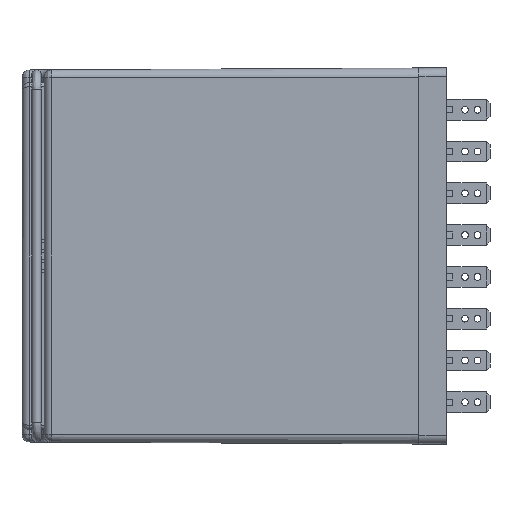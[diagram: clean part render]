
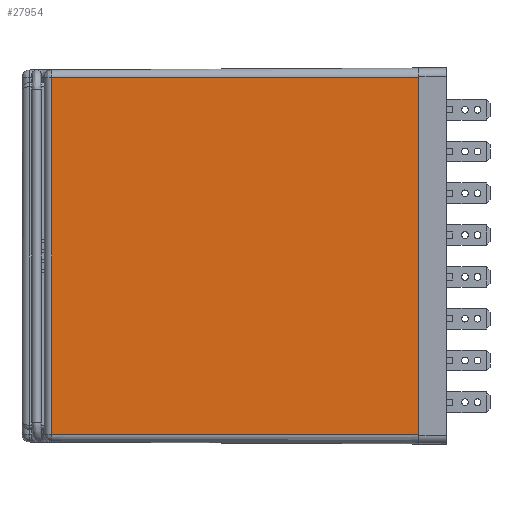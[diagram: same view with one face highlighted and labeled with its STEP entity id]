
A CAD part, front view. The second image highlights one B-rep face of the part: STEP entity #27954.
In plain terms, the highlighted planar face has unit normal (-0.005, -1, 0).
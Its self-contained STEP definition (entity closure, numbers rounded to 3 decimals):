
#1004 = DIRECTION ( 'NONE',  ( -0.005, -1., 0. ) ) ;
#2411 = VECTOR ( 'NONE', #10828, 1000. ) ;
#5689 = EDGE_CURVE ( 'NONE', #37981, #41498, #16978, .T. ) ;
#5910 = EDGE_CURVE ( 'NONE', #41498, #23125, #48045, .T. ) ;
#5987 = CARTESIAN_POINT ( 'NONE',  ( -87.909, -7.44, 42.6 ) ) ;
#6498 = VECTOR ( 'NONE', #41448, 1000. ) ;
#6945 = ORIENTED_EDGE ( 'NONE', *, *, #27018, .T. ) ;
#7037 = FACE_OUTER_BOUND ( 'NONE', #19294, .T. ) ;
#10116 = CARTESIAN_POINT ( 'NONE',  ( -87.909, -7.44, 42.6 ) ) ;
#10828 = DIRECTION ( 'NONE',  ( -1., 0.005, 0. ) ) ;
#12763 = PLANE ( 'NONE',  #15251 ) ;
#14763 = CARTESIAN_POINT ( 'NONE',  ( 0., -7.9, 42.6 ) ) ;
#15219 = VECTOR ( 'NONE', #37711, 1000. ) ;
#15251 = AXIS2_PLACEMENT_3D ( 'NONE', #44183, #1004, #28736 ) ;
#16451 = LINE ( 'NONE', #5987, #15219 ) ;
#16978 = LINE ( 'NONE', #17634, #6498 ) ;
#17634 = CARTESIAN_POINT ( 'NONE',  ( 0., -7.9, 42.6 ) ) ;
#18739 = CARTESIAN_POINT ( 'NONE',  ( 0., -7.9, 42.6 ) ) ;
#19294 = EDGE_LOOP ( 'NONE', ( #41047, #29335, #19448, #6945 ) ) ;
#19448 = ORIENTED_EDGE ( 'NONE', *, *, #31228, .T. ) ;
#23125 = VERTEX_POINT ( 'NONE', #40325 ) ;
#26923 = VECTOR ( 'NONE', #27727, 1000. ) ;
#27018 = EDGE_CURVE ( 'NONE', #42080, #23125, #16451, .T. ) ;
#27727 = DIRECTION ( 'NONE',  ( -1., 0.005, 0. ) ) ;
#27954 = ADVANCED_FACE ( 'NONE', ( #7037 ), #12763, .T. ) ;
#28736 = DIRECTION ( 'NONE',  ( 1., -0.005, 0. ) ) ;
#29335 = ORIENTED_EDGE ( 'NONE', *, *, #5689, .F. ) ;
#31228 = EDGE_CURVE ( 'NONE', #37981, #42080, #31548, .T. ) ;
#31548 = LINE ( 'NONE', #18739, #2411 ) ;
#31696 = CARTESIAN_POINT ( 'NONE',  ( 499000., -2620.682, -42.6 ) ) ;
#37711 = DIRECTION ( 'NONE',  ( 0., 0., -1. ) ) ;
#37981 = VERTEX_POINT ( 'NONE', #14763 ) ;
#40325 = CARTESIAN_POINT ( 'NONE',  ( -87.909, -7.44, -42.6 ) ) ;
#40399 = CARTESIAN_POINT ( 'NONE',  ( 0., -7.9, -42.6 ) ) ;
#41047 = ORIENTED_EDGE ( 'NONE', *, *, #5910, .F. ) ;
#41448 = DIRECTION ( 'NONE',  ( 0., 0., -1. ) ) ;
#41498 = VERTEX_POINT ( 'NONE', #40399 ) ;
#42080 = VERTEX_POINT ( 'NONE', #10116 ) ;
#44183 = CARTESIAN_POINT ( 'NONE',  ( 0., -7.9, 42.6 ) ) ;
#48045 = LINE ( 'NONE', #31696, #26923 ) ;
